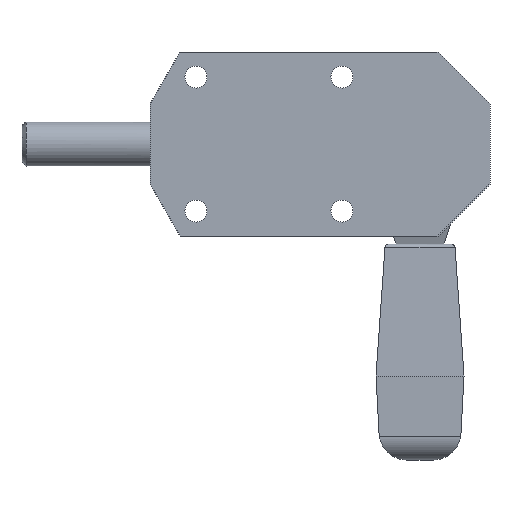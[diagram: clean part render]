
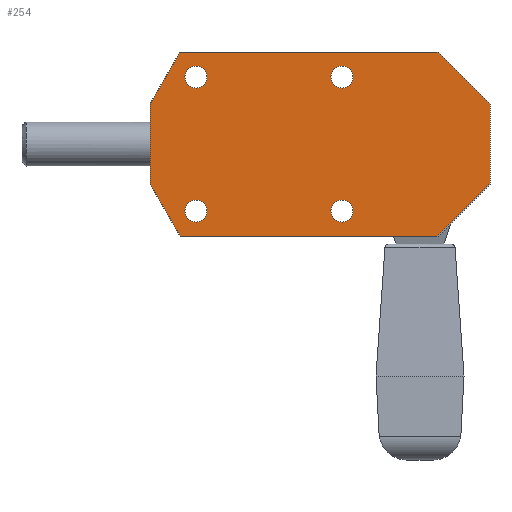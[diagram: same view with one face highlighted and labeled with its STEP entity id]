
A CAD part, front view. The second image highlights one B-rep face of the part: STEP entity #254.
In plain terms, the highlighted planar face has unit normal (0, -1, 0).
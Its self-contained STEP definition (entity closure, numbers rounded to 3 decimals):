
#254 = ADVANCED_FACE( '', ( #375, #376, #377, #378, #379 ), #380, .T. );
#375 = FACE_BOUND( '', #634, .T. );
#376 = FACE_BOUND( '', #635, .T. );
#377 = FACE_BOUND( '', #636, .T. );
#378 = FACE_BOUND( '', #637, .T. );
#379 = FACE_OUTER_BOUND( '', #638, .T. );
#380 = PLANE( '', #639 );
#634 = EDGE_LOOP( '', ( #986 ) );
#635 = EDGE_LOOP( '', ( #987 ) );
#636 = EDGE_LOOP( '', ( #988 ) );
#637 = EDGE_LOOP( '', ( #989 ) );
#638 = EDGE_LOOP( '', ( #990, #991, #992, #993, #994, #995, #996, #997 ) );
#639 = AXIS2_PLACEMENT_3D( '', #998, #999, #1000 );
#986 = ORIENTED_EDGE( '', *, *, #1658, .F. );
#987 = ORIENTED_EDGE( '', *, *, #1659, .F. );
#988 = ORIENTED_EDGE( '', *, *, #1660, .F. );
#989 = ORIENTED_EDGE( '', *, *, #1647, .F. );
#990 = ORIENTED_EDGE( '', *, *, #1623, .F. );
#991 = ORIENTED_EDGE( '', *, *, #1661, .F. );
#992 = ORIENTED_EDGE( '', *, *, #1662, .F. );
#993 = ORIENTED_EDGE( '', *, *, #1663, .F. );
#994 = ORIENTED_EDGE( '', *, *, #1639, .F. );
#995 = ORIENTED_EDGE( '', *, *, #1630, .F. );
#996 = ORIENTED_EDGE( '', *, *, #1627, .F. );
#997 = ORIENTED_EDGE( '', *, *, #1636, .F. );
#998 = CARTESIAN_POINT( '', ( 0., 0., 0. ) );
#999 = DIRECTION( '', ( 0., -1., 0. ) );
#1000 = DIRECTION( '', ( 0., 0., -1. ) );
#1623 = EDGE_CURVE( '', #1839, #1841, #1842, .T. );
#1627 = EDGE_CURVE( '', #1847, #1849, #1850, .T. );
#1630 = EDGE_CURVE( '', #1849, #1854, #1855, .T. );
#1636 = EDGE_CURVE( '', #1841, #1847, #1864, .T. );
#1639 = EDGE_CURVE( '', #1854, #1866, #1869, .T. );
#1647 = EDGE_CURVE( '', #1882, #1882, #1883, .T. );
#1658 = EDGE_CURVE( '', #1901, #1901, #1902, .T. );
#1659 = EDGE_CURVE( '', #1903, #1903, #1904, .T. );
#1660 = EDGE_CURVE( '', #1905, #1905, #1906, .T. );
#1661 = EDGE_CURVE( '', #1907, #1839, #1908, .T. );
#1662 = EDGE_CURVE( '', #1909, #1907, #1910, .T. );
#1663 = EDGE_CURVE( '', #1866, #1909, #1911, .T. );
#1839 = VERTEX_POINT( '', #2206 );
#1841 = VERTEX_POINT( '', #2209 );
#1842 = LINE( '', #2210, #2211 );
#1847 = VERTEX_POINT( '', #2218 );
#1849 = VERTEX_POINT( '', #2221 );
#1850 = LINE( '', #2222, #2223 );
#1854 = VERTEX_POINT( '', #2229 );
#1855 = LINE( '', #2230, #2231 );
#1864 = LINE( '', #2243, #2244 );
#1866 = VERTEX_POINT( '', #2246 );
#1869 = LINE( '', #2251, #2252 );
#1882 = VERTEX_POINT( '', #2270 );
#1883 = CIRCLE( '', #2271, 2.75 );
#1901 = VERTEX_POINT( '', #2294 );
#1902 = CIRCLE( '', #2295, 2.75 );
#1903 = VERTEX_POINT( '', #2296 );
#1904 = CIRCLE( '', #2297, 2.75 );
#1905 = VERTEX_POINT( '', #2298 );
#1906 = CIRCLE( '', #2299, 2.75 );
#1907 = VERTEX_POINT( '', #2300 );
#1908 = LINE( '', #2301, #2302 );
#1909 = VERTEX_POINT( '', #2303 );
#1910 = LINE( '', #2304, #2305 );
#1911 = LINE( '', #2306, #2307 );
#2206 = CARTESIAN_POINT( '', ( 7.506, 0., -23. ) );
#2209 = CARTESIAN_POINT( '', ( 0., 0., -10. ) );
#2210 = CARTESIAN_POINT( '', ( 7.506, 0., -23. ) );
#2211 = VECTOR( '', #2932, 1000. );
#2218 = CARTESIAN_POINT( '', ( 0., 0., 10. ) );
#2221 = CARTESIAN_POINT( '', ( 7.506, 0., 23. ) );
#2222 = CARTESIAN_POINT( '', ( 0., 0., 10. ) );
#2223 = VECTOR( '', #2936, 1000. );
#2229 = CARTESIAN_POINT( '', ( 72., 0., 23. ) );
#2230 = CARTESIAN_POINT( '', ( 7.506, 0., 23. ) );
#2231 = VECTOR( '', #2939, 1000. );
#2243 = CARTESIAN_POINT( '', ( 0., 0., -10. ) );
#2244 = VECTOR( '', #2949, 1000. );
#2246 = CARTESIAN_POINT( '', ( 85., 0., 10. ) );
#2251 = CARTESIAN_POINT( '', ( 72., 0., 23. ) );
#2252 = VECTOR( '', #2952, 1000. );
#2270 = CARTESIAN_POINT( '', ( 11.5, 0., 14. ) );
#2271 = AXIS2_PLACEMENT_3D( '', #2964, #2965, #2966 );
#2294 = CARTESIAN_POINT( '', ( 11.5, 0., -19.5 ) );
#2295 = AXIS2_PLACEMENT_3D( '', #2987, #2988, #2989 );
#2296 = CARTESIAN_POINT( '', ( 48., 0., -19.5 ) );
#2297 = AXIS2_PLACEMENT_3D( '', #2990, #2991, #2992 );
#2298 = CARTESIAN_POINT( '', ( 48., 0., 14. ) );
#2299 = AXIS2_PLACEMENT_3D( '', #2993, #2994, #2995 );
#2300 = CARTESIAN_POINT( '', ( 72., 0., -23. ) );
#2301 = CARTESIAN_POINT( '', ( 72., 0., -23. ) );
#2302 = VECTOR( '', #2996, 1000. );
#2303 = CARTESIAN_POINT( '', ( 85., 0., -10. ) );
#2304 = CARTESIAN_POINT( '', ( 85., 0., -10. ) );
#2305 = VECTOR( '', #2997, 1000. );
#2306 = CARTESIAN_POINT( '', ( 85., 0., 10. ) );
#2307 = VECTOR( '', #2998, 1000. );
#2932 = DIRECTION( '', ( -0.5, 0., 0.866 ) );
#2936 = DIRECTION( '', ( 0.5, 0., 0.866 ) );
#2939 = DIRECTION( '', ( 1., 0., 0. ) );
#2949 = DIRECTION( '', ( 0., 0., 1. ) );
#2952 = DIRECTION( '', ( 0.707, 0., -0.707 ) );
#2964 = CARTESIAN_POINT( '', ( 11.5, 0., 16.75 ) );
#2965 = DIRECTION( '', ( 0., -1., 0. ) );
#2966 = DIRECTION( '', ( 0., 0., -1. ) );
#2987 = CARTESIAN_POINT( '', ( 11.5, 0., -16.75 ) );
#2988 = DIRECTION( '', ( 0., -1., 0. ) );
#2989 = DIRECTION( '', ( 0., 0., -1. ) );
#2990 = CARTESIAN_POINT( '', ( 48., 0., -16.75 ) );
#2991 = DIRECTION( '', ( 0., -1., 0. ) );
#2992 = DIRECTION( '', ( 0., 0., -1. ) );
#2993 = CARTESIAN_POINT( '', ( 48., 0., 16.75 ) );
#2994 = DIRECTION( '', ( 0., -1., 0. ) );
#2995 = DIRECTION( '', ( 0., 0., -1. ) );
#2996 = DIRECTION( '', ( -1., 0., 0. ) );
#2997 = DIRECTION( '', ( -0.707, 0., -0.707 ) );
#2998 = DIRECTION( '', ( 0., 0., -1. ) );
